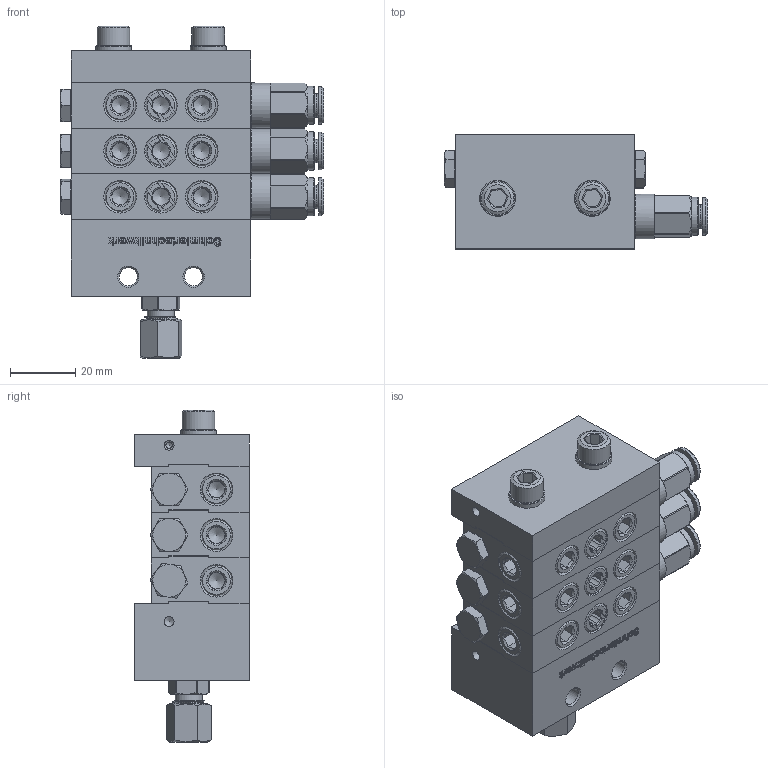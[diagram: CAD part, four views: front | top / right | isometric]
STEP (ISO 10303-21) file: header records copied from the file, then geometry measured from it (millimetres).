
FILE_DESCRIPTION (( 'STEP AP214' ), '1' );
FILE_NAME ('STW_XV_0143_03_0502_03_Auslässe.STEP', '2026-02-04T11:04:45', ( '' ), ( '' ), 'SwSTEP 2.0', 'SolidWorks 2022', '' );
FILE_SCHEMA (( 'AUTOMOTIVE_DESIGN' ));
Length unit declared in the file: millimetre
Products named in the file (18): Verschlussstopfen_1_8; 991214010601_Schneidring; STW_XV_MITTEL_1; 991214010601_Koerper; M6X65_DIN_912; STW_XV_Verbindungsstopen; STW_XV_Kolbenanschlag; STW_XV_END; 991214010601; U_Scheibe_6; 991214010601_Mutter; DR6-C_HDX_25.07.16_1; OR 7.66X1.78_1; RIVOLUZIONE_0_2; STW_XV_ENGANG; STW_XV_0143_03_0502_03_Auslässe; Verschlussstopfen_1_8_2; H200139_HDS01_6_M10X1_08.05.17
Assembly tree (37 placements, depth 3):
  STW_XV_0143_03_0502_03_Auslässe
    STW_XV_ENGANG
    STW_XV_MITTEL_1  x3
    STW_XV_END
    Verschlussstopfen_1_8_2  x6
    STW_XV_Kolbenanschlag  x6
    STW_XV_Verbindungsstopen  x3
    M6X65_DIN_912  x2
    U_Scheibe_6  x2
    991214010601
      991214010601_Koerper
      991214010601_Schneidring
      991214010601_Mutter
    H200139_HDS01_6_M10X1_08.05.17  x3
      OR 7.66X1.78_1
      DR6-C_HDX_25.07.16_1
      RIVOLUZIONE_0_2
    Verschlussstopfen_1_8  x3
Bounding box: 80.55 x 35 x 101.68 mm (x, y, z)
Volume: 134971 mm3; surface area: 67534.4 mm2
Topology: 39 solids, 39 shells, 1431 faces, 3684 edges, 2364 vertices
Faces by surface type: plane 711, cylinder 336, cone 255, bspline 123, torus 6
Full cylindrical faces by diameter (mm): 2 x89, 3 x10, 4.2 x3, 4.5 x1, 5 x38, 5.5 x2, 5.9 x2, 6 x3, 6.2 x12, 6.3 x3, 6.4 x2, 6.5 x6, 7 x6, 7.2 x3, 7.4 x1, 7.67 x1, 8 x7, 8.3 x1, 8.4 x3, 8.5 x3, 8.6 x15, 9 x8, 9.7 x9, 9.73 x3, 9.8 x7, 9.9 x3, 10 x14, 10.3 x3, 11 x2, 11.5 x3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
Entity records: 45478 total; most frequent: CARTESIAN_POINT 22428, ORIENTED_EDGE 3064, DIRECTION 2675, EDGE_CURVE 1532, VERTEX_POINT 1095, EDGE_LOOP 1035, AXIS2_PLACEMENT_3D 955, FACE_OUTER_BOUND 832
